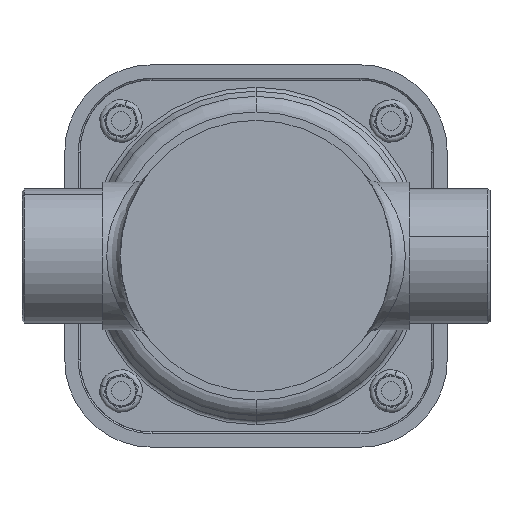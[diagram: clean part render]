
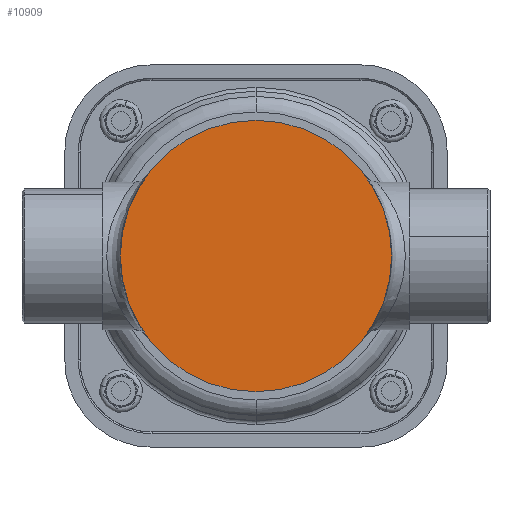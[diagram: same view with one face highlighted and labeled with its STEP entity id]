
A CAD part, front view. The second image highlights one B-rep face of the part: STEP entity #10909.
In plain terms, the highlighted planar face has unit normal (0, -1, 0).
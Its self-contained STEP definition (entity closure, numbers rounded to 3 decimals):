
#460 = ORIENTED_EDGE ( 'NONE', *, *, #4930, .F. ) ;
#1747 = CARTESIAN_POINT ( 'NONE',  ( 0., 0., 0. ) ) ;
#2493 = CARTESIAN_POINT ( 'NONE',  ( 0., 0., -30.15 ) ) ;
#2671 = PLANE ( 'NONE',  #6512 ) ;
#2809 = DIRECTION ( 'NONE',  ( 0., 1., 0. ) ) ;
#3824 = EDGE_LOOP ( 'NONE', ( #13813, #460 ) ) ;
#3926 = CIRCLE ( 'NONE', #6365, 30.15 ) ;
#3985 = CARTESIAN_POINT ( 'NONE',  ( 0., 0., 0. ) ) ;
#4930 = EDGE_CURVE ( 'NONE', #7058, #10244, #3926, .T. ) ;
#6365 = AXIS2_PLACEMENT_3D ( 'NONE', #3985, #13457, #10205 ) ;
#6512 = AXIS2_PLACEMENT_3D ( 'NONE', #1747, #2809, #12297 ) ;
#6974 = CARTESIAN_POINT ( 'NONE',  ( 0., 0., 0. ) ) ;
#7058 = VERTEX_POINT ( 'NONE', #8339 ) ;
#8339 = CARTESIAN_POINT ( 'NONE',  ( 0., 0., 30.15 ) ) ;
#8768 = DIRECTION ( 'NONE',  ( 0., 0., 1. ) ) ;
#8951 = EDGE_CURVE ( 'NONE', #10244, #7058, #13365, .T. ) ;
#9246 = AXIS2_PLACEMENT_3D ( 'NONE', #6974, #9412, #8768 ) ;
#9412 = DIRECTION ( 'NONE',  ( 0., 1., 0. ) ) ;
#9838 = FACE_OUTER_BOUND ( 'NONE', #3824, .T. ) ;
#10205 = DIRECTION ( 'NONE',  ( 0., 0., 1. ) ) ;
#10244 = VERTEX_POINT ( 'NONE', #2493 ) ;
#10909 = ADVANCED_FACE ( 'NONE', ( #9838 ), #2671, .F. ) ;
#12297 = DIRECTION ( 'NONE',  ( 0., 0., 1. ) ) ;
#13365 = CIRCLE ( 'NONE', #9246, 30.15 ) ;
#13457 = DIRECTION ( 'NONE',  ( 0., 1., 0. ) ) ;
#13813 = ORIENTED_EDGE ( 'NONE', *, *, #8951, .F. ) ;
